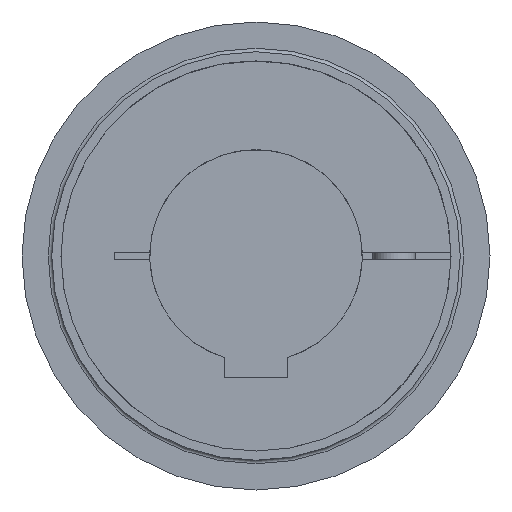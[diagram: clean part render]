
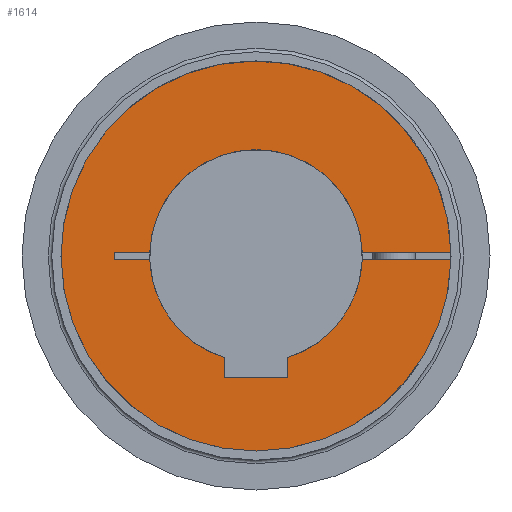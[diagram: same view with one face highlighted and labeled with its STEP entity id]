
A CAD part, left-side view. The second image highlights one B-rep face of the part: STEP entity #1614.
In plain terms, the highlighted planar face has unit normal (-1, 0, 0).
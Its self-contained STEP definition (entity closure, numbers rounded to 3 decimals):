
#24=PLANE('',#1855);
#149=LINE('',#2938,#252);
#152=LINE('',#2944,#255);
#153=LINE('',#2946,#256);
#164=LINE('',#2967,#267);
#165=LINE('',#2969,#268);
#166=LINE('',#2971,#269);
#167=LINE('',#2973,#270);
#168=LINE('',#2974,#271);
#252=VECTOR('',#2265,1.);
#255=VECTOR('',#2270,1.);
#256=VECTOR('',#2273,1.);
#267=VECTOR('',#2296,1.);
#268=VECTOR('',#2299,1.);
#269=VECTOR('',#2300,1.);
#270=VECTOR('',#2301,1.);
#271=VECTOR('',#2302,1.);
#387=FACE_OUTER_BOUND('',#490,.T.);
#490=EDGE_LOOP('',(#1332,#1333,#1334,#1335,#1336,#1337,#1338,#1339,#1340,
#1341,#1342,#1343,#1344));
#652=CIRCLE('',#1790,55.);
#655=CIRCLE('',#1793,55.);
#686=CIRCLE('',#1839,30.);
#689=CIRCLE('',#1843,30.);
#691=CIRCLE('',#1845,30.);
#761=VERTEX_POINT('',#2634);
#762=VERTEX_POINT('',#2636);
#767=VERTEX_POINT('',#2646);
#808=VERTEX_POINT('',#2908);
#809=VERTEX_POINT('',#2909);
#814=VERTEX_POINT('',#2920);
#815=VERTEX_POINT('',#2922);
#818=VERTEX_POINT('',#2928);
#819=VERTEX_POINT('',#2930);
#821=VERTEX_POINT('',#2936);
#823=VERTEX_POINT('',#2942);
#828=VERTEX_POINT('',#2970);
#829=VERTEX_POINT('',#2972);
#946=EDGE_CURVE('',#761,#762,#652,.T.);
#952=EDGE_CURVE('',#767,#761,#655,.T.);
#1005=EDGE_CURVE('',#808,#809,#686,.T.);
#1011=EDGE_CURVE('',#815,#814,#689,.T.);
#1015=EDGE_CURVE('',#819,#818,#691,.T.);
#1019=EDGE_CURVE('',#818,#821,#149,.T.);
#1022=EDGE_CURVE('',#821,#823,#152,.T.);
#1023=EDGE_CURVE('',#823,#815,#153,.T.);
#1034=EDGE_CURVE('',#809,#762,#164,.T.);
#1035=EDGE_CURVE('',#767,#819,#165,.T.);
#1036=EDGE_CURVE('',#814,#828,#166,.T.);
#1037=EDGE_CURVE('',#828,#829,#167,.T.);
#1038=EDGE_CURVE('',#829,#808,#168,.T.);
#1332=ORIENTED_EDGE('',*,*,#1005,.T.);
#1333=ORIENTED_EDGE('',*,*,#1034,.T.);
#1334=ORIENTED_EDGE('',*,*,#946,.F.);
#1335=ORIENTED_EDGE('',*,*,#952,.F.);
#1336=ORIENTED_EDGE('',*,*,#1035,.T.);
#1337=ORIENTED_EDGE('',*,*,#1015,.T.);
#1338=ORIENTED_EDGE('',*,*,#1019,.T.);
#1339=ORIENTED_EDGE('',*,*,#1022,.T.);
#1340=ORIENTED_EDGE('',*,*,#1023,.T.);
#1341=ORIENTED_EDGE('',*,*,#1011,.T.);
#1342=ORIENTED_EDGE('',*,*,#1036,.T.);
#1343=ORIENTED_EDGE('',*,*,#1037,.T.);
#1344=ORIENTED_EDGE('',*,*,#1038,.T.);
#1614=ADVANCED_FACE('',(#387),#24,.T.);
#1790=AXIS2_PLACEMENT_3D('',#2637,#2124,#2125);
#1793=AXIS2_PLACEMENT_3D('',#2648,#2133,#2134);
#1839=AXIS2_PLACEMENT_3D('',#2910,#2241,#2242);
#1843=AXIS2_PLACEMENT_3D('',#2923,#2252,#2253);
#1845=AXIS2_PLACEMENT_3D('',#2931,#2258,#2259);
#1855=AXIS2_PLACEMENT_3D('',#2968,#2297,#2298);
#2124=DIRECTION('center_axis',(1.,0.,0.));
#2125=DIRECTION('ref_axis',(0.,0.,1.));
#2133=DIRECTION('center_axis',(1.,0.,0.));
#2134=DIRECTION('ref_axis',(0.,0.,1.));
#2241=DIRECTION('center_axis',(1.,0.,0.));
#2242=DIRECTION('ref_axis',(0.,0.,-1.));
#2252=DIRECTION('center_axis',(1.,0.,0.));
#2253=DIRECTION('ref_axis',(0.,0.,-1.));
#2258=DIRECTION('center_axis',(1.,0.,0.));
#2259=DIRECTION('ref_axis',(0.,0.,-1.));
#2265=DIRECTION('',(0.,0.,-1.));
#2270=DIRECTION('',(0.,1.,0.));
#2273=DIRECTION('',(0.,0.,1.));
#2296=DIRECTION('',(0.,-1.,0.));
#2297=DIRECTION('center_axis',(-1.,0.,0.));
#2298=DIRECTION('ref_axis',(0.,0.,-1.));
#2299=DIRECTION('',(0.,1.,0.));
#2300=DIRECTION('',(0.,1.,0.));
#2301=DIRECTION('',(0.,0.,1.));
#2302=DIRECTION('',(0.,-1.,0.));
#2634=CARTESIAN_POINT('',(0.,0.,-55.));
#2636=CARTESIAN_POINT('',(0.,-54.991,1.));
#2637=CARTESIAN_POINT('Origin',(0.,0.,0.));
#2646=CARTESIAN_POINT('',(0.,-54.991,-1.));
#2648=CARTESIAN_POINT('Origin',(0.,0.,0.));
#2908=CARTESIAN_POINT('',(0.,29.983,1.));
#2909=CARTESIAN_POINT('',(0.,-29.983,1.));
#2910=CARTESIAN_POINT('Origin',(0.,0.,0.));
#2920=CARTESIAN_POINT('',(0.,29.983,-1.));
#2922=CARTESIAN_POINT('',(0.,9.,-28.618));
#2923=CARTESIAN_POINT('Origin',(0.,0.,0.));
#2928=CARTESIAN_POINT('',(0.,-9.,-28.618));
#2930=CARTESIAN_POINT('',(0.,-29.983,-1.));
#2931=CARTESIAN_POINT('Origin',(0.,0.,0.));
#2936=CARTESIAN_POINT('',(0.,-9.,-34.4));
#2938=CARTESIAN_POINT('',(0.,-9.,5.15));
#2942=CARTESIAN_POINT('',(0.,9.,-34.4));
#2944=CARTESIAN_POINT('',(0.,0.,-34.4));
#2946=CARTESIAN_POINT('',(0.,9.,5.15));
#2967=CARTESIAN_POINT('',(0.,-4.,1.));
#2968=CARTESIAN_POINT('Origin',(0.,0.,27.5));
#2969=CARTESIAN_POINT('',(0.,-4.,-1.));
#2970=CARTESIAN_POINT('',(0.,40.,-1.));
#2971=CARTESIAN_POINT('',(0.,-4.,-1.));
#2972=CARTESIAN_POINT('',(0.,40.,1.));
#2973=CARTESIAN_POINT('',(0.,40.,13.75));
#2974=CARTESIAN_POINT('',(0.,-4.,1.));
